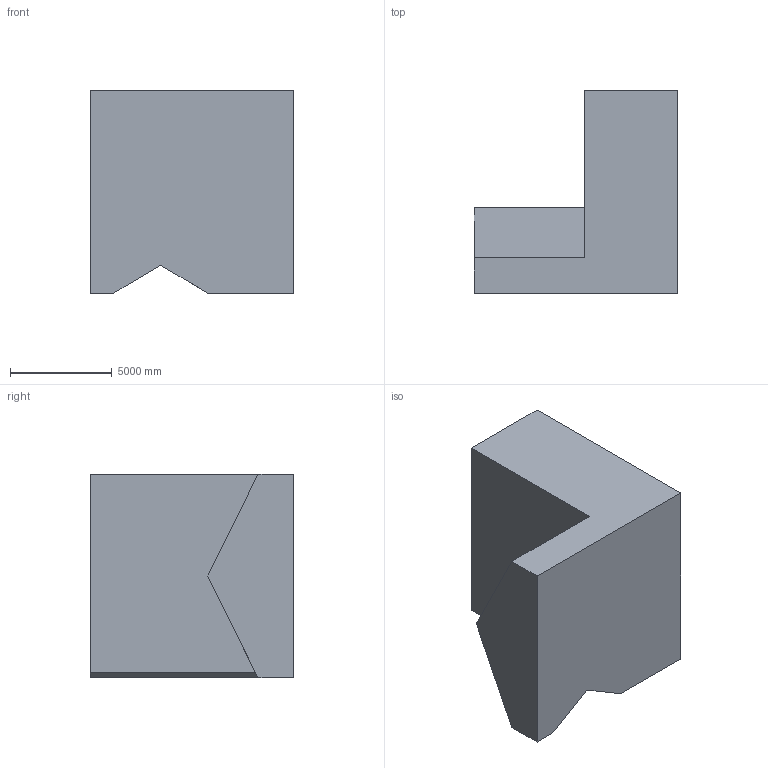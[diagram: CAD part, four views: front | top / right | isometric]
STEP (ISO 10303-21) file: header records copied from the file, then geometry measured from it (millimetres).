
FILE_DESCRIPTION (( 'STEP AP203' ), '1' );
FILE_NAME ('3.STEP', '2022-09-01T11:34:16', ( 'user' ), ( '' ), 'SwSTEP 2.0', 'SolidWorks 2021', '' );
FILE_SCHEMA (( 'CONFIG_CONTROL_DESIGN' ));
Length unit declared in the file: centimetre
Products named in the file (1): 3
Bounding box: 10000 x 10000 x 10000 mm (x, y, z)
Volume: 613445346043.4 mm3; surface area: 511810292.4 mm2
Topology: 1 solids, 1 shells, 12 faces, 30 edges, 20 vertices
Faces by surface type: plane 12
Entity records: 431 total; most frequent: CARTESIAN_POINT 63, ORIENTED_EDGE 60, DIRECTION 56, VECTOR 30, LINE 30, EDGE_CURVE 30, VERTEX_POINT 20, AXIS2_PLACEMENT_3D 13
